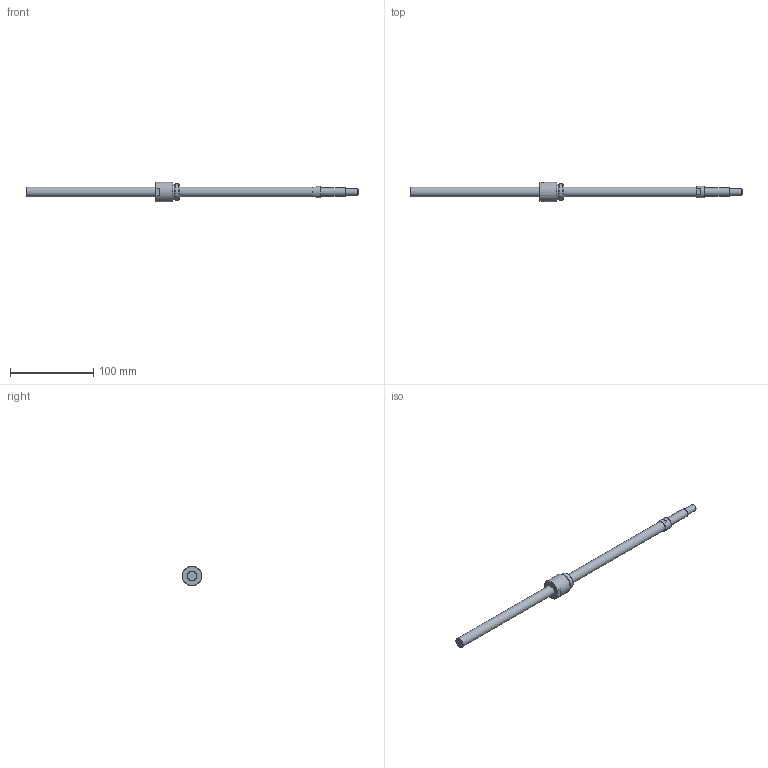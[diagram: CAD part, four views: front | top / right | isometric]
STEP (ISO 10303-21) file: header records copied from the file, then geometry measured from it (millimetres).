
FILE_DESCRIPTION(/* description */ ('STEP AP214'),/* implementation_level */ '2;1');
FILE_NAME(/* name */ 'NSG1204-341R400C5A0X(156)',/* time_stamp */ '2026-08-20T15:50:52+02:00',/* author */ ('License CC BY-ND 4.0'),/* organization */ ('CADENAS'),/* preprocessor_version */ 'ST-DEVELOPER v20',/* originating_system */ 'PARTsolutions',/* authorisation */ ' ');
FILE_SCHEMA (('AUTOMOTIVE_DESIGN {1 0 10303 214 3 1 1}'));
Length unit declared in the file: millimetre
Products named in the file (3): NSG1204-341R400C5A0X(156); NSG1204-341R400C3A_shaft; NSG1204_nut
Assembly tree (2 placements, depth 2):
  NSG1204-341R400C5A0X(156)
    NSG1204-341R400C3A_shaft
    NSG1204_nut
Bounding box: 400 x 24 x 24 mm (x, y, z)
Volume: 52128.2 mm3; surface area: 18876.8 mm2
Topology: 2 solids, 2 shells, 35 faces, 72 edges, 44 vertices
Faces by surface type: plane 17, cone 9, cylinder 8, torus 1
Full cylindrical faces by diameter (mm): 8 x1, 10 x1, 12 x2, 14 x1, 18.4 x1, 20 x1, 24 x1
Entity records: 907 total; most frequent: DIRECTION 158, CARTESIAN_POINT 146, ORIENTED_EDGE 108, AXIS2_PLACEMENT_3D 70, EDGE_LOOP 56, FACE_BOUND 56, EDGE_CURVE 54, VERTEX_POINT 42
